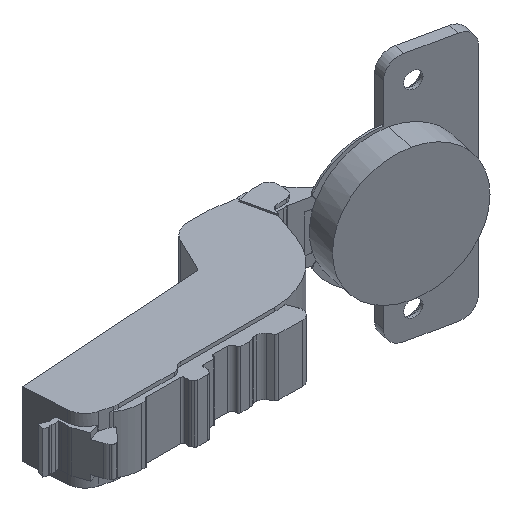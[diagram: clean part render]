
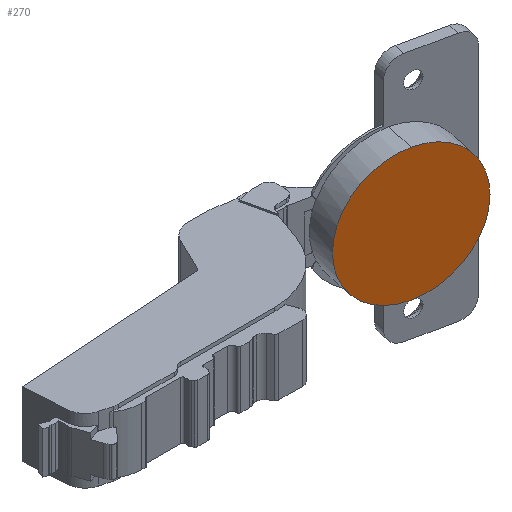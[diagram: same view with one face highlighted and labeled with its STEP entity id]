
A CAD part, isometric view. The second image highlights one B-rep face of the part: STEP entity #270.
In plain terms, the highlighted planar face has unit normal (-0.212, -0.977, 0).
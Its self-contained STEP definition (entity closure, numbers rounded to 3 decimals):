
#270 = ADVANCED_FACE ( 'NONE', ( #2497 ), #421, .F. ) ;
#328 = DIRECTION ( 'NONE',  ( -0.212, -0.977, 0. ) ) ;
#421 = PLANE ( 'NONE',  #4792 ) ;
#1261 = CARTESIAN_POINT ( 'NONE',  ( 19.279, 0.338, 0. ) ) ;
#1559 = DIRECTION ( 'NONE',  ( 0., 0., 1. ) ) ;
#1600 = CARTESIAN_POINT ( 'NONE',  ( 19.279, 0.338, -17.4 ) ) ;
#2277 = DIRECTION ( 'NONE',  ( 0.977, -0.212, 0. ) ) ;
#2376 = CARTESIAN_POINT ( 'NONE',  ( 19.279, 0.338, 0. ) ) ;
#2450 = AXIS2_PLACEMENT_3D ( 'NONE', #1261, #5816, #2872 ) ;
#2497 = FACE_OUTER_BOUND ( 'NONE', #4399, .T. ) ;
#2555 = CIRCLE ( 'NONE', #2450, 17.4 ) ;
#2564 = CARTESIAN_POINT ( 'NONE',  ( 29.997, -1.982, -7.7 ) ) ;
#2872 = DIRECTION ( 'NONE',  ( 0.977, -0.212, 0. ) ) ;
#2926 = CARTESIAN_POINT ( 'NONE',  ( 19.279, 0.338, 17.4 ) ) ;
#3059 = CIRCLE ( 'NONE', #4100, 17.4 ) ;
#3109 = DIRECTION ( 'NONE',  ( 0.212, 0.977, 0. ) ) ;
#3327 = VERTEX_POINT ( 'NONE', #2926 ) ;
#4100 = AXIS2_PLACEMENT_3D ( 'NONE', #2376, #328, #2277 ) ;
#4399 = EDGE_LOOP ( 'NONE', ( #5543, #5426 ) ) ;
#4792 = AXIS2_PLACEMENT_3D ( 'NONE', #2564, #3109, #1559 ) ;
#5335 = EDGE_CURVE ( 'NONE', #5711, #3327, #3059, .T. ) ;
#5426 = ORIENTED_EDGE ( 'NONE', *, *, #5335, .T. ) ;
#5543 = ORIENTED_EDGE ( 'NONE', *, *, #5774, .T. ) ;
#5711 = VERTEX_POINT ( 'NONE', #1600 ) ;
#5774 = EDGE_CURVE ( 'NONE', #3327, #5711, #2555, .T. ) ;
#5816 = DIRECTION ( 'NONE',  ( -0.212, -0.977, 0. ) ) ;
